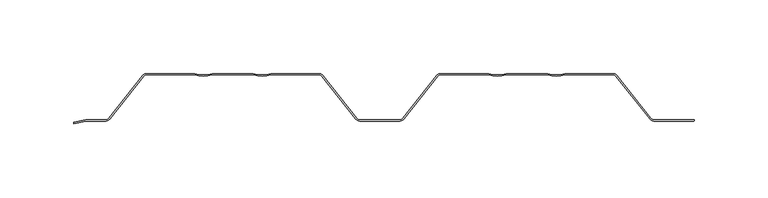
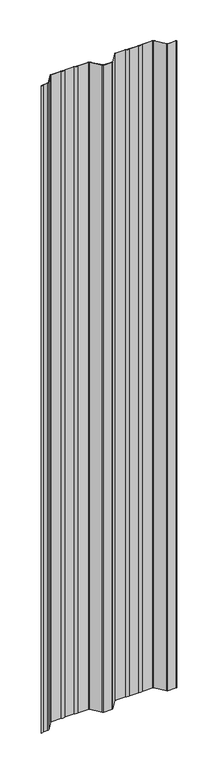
"""IFC4 building model written with IfcOpenShell, lengths in millimetres: plate geometry, HIANSA - H20.F09.003-CHAPA PERFILADA FACHADA VERTICAL - MT32F - Panel de Muro Cortina : -."""

from ifc_helpers import new_model, si_unit, point, frame_2d, origin, origin_with_axes, place, context, project, spatial, polyline, circle_curve, trimmed, segment, composite_curve, outline, extrude, source, transform, mapped, element, save


def plate_780f8bb1(model_context):
    return source(origin(), model_context, "Body", "SweptSolid", [
        extrude(outline(composite_curve([segment(polyline([(-184.4192938, -30.5163104), (-161.2209231, -1.2863633)]), True, "CONTINUOUS"), segment(trimmed(circle_curve(frame_2d((-158.5577408, -3.4)), 3.4), [point((-161.2209231, -1.2863633))], [point((-158.5577408, 0.0))], False, "CARTESIAN"), True, "CONTINUOUS"), segment(polyline([(-158.5577408, 0.0), (-125.9329586, 0.0)]), True, "CONTINUOUS"), segment(trimmed(circle_curve(frame_2d((-119.9999998, 17.1)), 18.1), [point((-125.9329586, 0.0))], [point((-114.0670411, 0.0))], True, "CARTESIAN"), True, "CONTINUOUS"), segment(polyline([(-114.0670411, 0.0), (-85.9329586, 0.0)]), True, "CONTINUOUS"), segment(trimmed(circle_curve(frame_2d((-79.9999998, 17.1)), 18.1), [point((-85.9329586, 0.0))], [point((-74.0670411, 0.0))], True, "CARTESIAN"), True, "CONTINUOUS"), segment(polyline([(-74.0670411, 0.0), (-41.4422589, 0.0)]), True, "CONTINUOUS"), segment(trimmed(circle_curve(frame_2d((-41.4422589, -3.4)), 3.4), [point((-41.4422589, 0.0))], [point((-38.7790766, -1.2863633))], False, "CARTESIAN"), True, "CONTINUOUS"), segment(polyline([(-38.7790766, -1.2863633), (-15.5807059, -30.5163104)]), True, "CONTINUOUS"), segment(trimmed(circle_curve(frame_2d((-13.5441547, -28.9)), 2.6), [point((-15.5807059, -30.5163104))], [point((-13.5441547, -31.5))], True, "CARTESIAN"), True, "CONTINUOUS"), segment(polyline([(-13.5441547, -31.5), (13.544155, -31.5)]), True, "CONTINUOUS"), segment(trimmed(circle_curve(frame_2d((13.544155, -28.9)), 2.6), [point((13.544155, -31.5))], [point((15.5807062, -30.5163104))], True, "CARTESIAN"), True, "CONTINUOUS"), segment(polyline([(15.5807062, -30.5163104), (38.7790769, -1.2863633)]), True, "CONTINUOUS"), segment(trimmed(circle_curve(frame_2d((41.4422592, -3.4)), 3.4), [point((38.7790769, -1.2863633))], [point((41.4422592, 0.0))], False, "CARTESIAN"), True, "CONTINUOUS"), segment(polyline([(41.4422592, 0.0), (74.0670414, 0.0)]), True, "CONTINUOUS"), segment(trimmed(circle_curve(frame_2d((80.0000002, 17.1)), 18.1), [point((74.0670414, 0.0))], [point((85.9329589, 0.0))], True, "CARTESIAN"), True, "CONTINUOUS"), segment(polyline([(85.9329589, 0.0), (114.0670414, 0.0)]), True, "CONTINUOUS"), segment(trimmed(circle_curve(frame_2d((120.0000002, 17.1)), 18.1), [point((114.0670414, 0.0))], [point((125.9329589, 0.0))], True, "CARTESIAN"), True, "CONTINUOUS"), segment(polyline([(125.9329589, 0.0), (158.5577411, 0.0)]), True, "CONTINUOUS"), segment(trimmed(circle_curve(frame_2d((158.5577411, -3.4)), 3.4), [point((158.5577411, 0.0))], [point((161.2209234, -1.2863633))], False, "CARTESIAN"), True, "CONTINUOUS"), segment(polyline([(161.2209234, -1.2863633), (184.4192941, -30.5163104)]), True, "CONTINUOUS"), segment(trimmed(circle_curve(frame_2d((186.4558453, -28.9)), 2.6), [point((184.4192941, -30.5163104))], [point((186.4558453, -31.5))], True, "CARTESIAN"), True, "CONTINUOUS"), segment(polyline([(186.4558453, -31.5), (213.544155, -31.5)]), True, "CONTINUOUS"), segment(trimmed(circle_curve(frame_2d((213.544155, -28.9)), 2.6), [point((213.544155, -31.5))], [point((213.9999998, -31.4597276))], True, "CARTESIAN"), True, "CONTINUOUS"), segment(polyline([(213.9999998, -31.4597276), (213.9999998, -32.2693034)]), True, "CONTINUOUS"), segment(trimmed(circle_curve(frame_2d((213.544155, -28.9)), 3.4), [point((213.9999998, -32.2693034))], [point((213.544155, -32.3))], False, "CARTESIAN"), True, "CONTINUOUS"), segment(polyline([(213.544155, -32.3), (186.4558453, -32.3)]), True, "CONTINUOUS"), segment(trimmed(circle_curve(frame_2d((186.4558453, -28.9)), 3.4), [point((186.4558453, -32.3))], [point((183.792663, -31.0136367))], False, "CARTESIAN"), True, "CONTINUOUS"), segment(polyline([(183.792663, -31.0136367), (160.5942923, -1.7836896)]), True, "CONTINUOUS"), segment(trimmed(circle_curve(frame_2d((158.5577411, -3.4)), 2.6), [point((160.5942923, -1.7836896))], [point((158.5577411, -0.8))], True, "CARTESIAN"), True, "CONTINUOUS"), segment(polyline([(158.5577411, -0.8), (126.0663005, -0.8)]), True, "CONTINUOUS"), segment(trimmed(circle_curve(frame_2d((120.0000002, 17.1)), 18.9), [point((126.0663005, -0.8))], [point((113.9336998, -0.8))], False, "CARTESIAN"), True, "CONTINUOUS"), segment(polyline([(113.9336998, -0.8), (86.0663005, -0.8)]), True, "CONTINUOUS"), segment(trimmed(circle_curve(frame_2d((80.0000002, 17.1)), 18.9), [point((86.0663005, -0.8))], [point((73.9336998, -0.8))], False, "CARTESIAN"), True, "CONTINUOUS"), segment(polyline([(73.9336998, -0.8), (41.4422592, -0.8)]), True, "CONTINUOUS"), segment(trimmed(circle_curve(frame_2d((41.4422592, -3.4)), 2.6), [point((41.4422592, -0.8))], [point((39.405708, -1.7836896))], True, "CARTESIAN"), True, "CONTINUOUS"), segment(polyline([(39.405708, -1.7836896), (16.2073373, -31.0136367)]), True, "CONTINUOUS"), segment(trimmed(circle_curve(frame_2d((13.544155, -28.9)), 3.4), [point((16.2073373, -31.0136367))], [point((13.544155, -32.3))], False, "CARTESIAN"), True, "CONTINUOUS"), segment(polyline([(13.544155, -32.3), (-13.5441547, -32.3)]), True, "CONTINUOUS"), segment(trimmed(circle_curve(frame_2d((-13.5441547, -28.9)), 3.4), [point((-13.5441547, -32.3))], [point((-16.207337, -31.0136367))], False, "CARTESIAN"), True, "CONTINUOUS"), segment(polyline([(-16.207337, -31.0136367), (-39.4057077, -1.7836896)]), True, "CONTINUOUS"), segment(trimmed(circle_curve(frame_2d((-41.4422589, -3.4)), 2.6), [point((-39.4057077, -1.7836896))], [point((-41.4422589, -0.8))], True, "CARTESIAN"), True, "CONTINUOUS"), segment(polyline([(-41.4422589, -0.8), (-73.9336995, -0.8)]), True, "CONTINUOUS"), segment(trimmed(circle_curve(frame_2d((-79.9999998, 17.1)), 18.9), [point((-73.9336995, -0.8))], [point((-86.0663002, -0.8))], False, "CARTESIAN"), True, "CONTINUOUS"), segment(polyline([(-86.0663002, -0.8), (-113.9336995, -0.8)]), True, "CONTINUOUS"), segment(trimmed(circle_curve(frame_2d((-119.9999998, 17.1)), 18.9), [point((-113.9336995, -0.8))], [point((-126.0663002, -0.8))], False, "CARTESIAN"), True, "CONTINUOUS"), segment(polyline([(-126.0663002, -0.8), (-158.5577408, -0.8)]), True, "CONTINUOUS"), segment(trimmed(circle_curve(frame_2d((-158.5577408, -3.4)), 2.6), [point((-158.5577408, -0.8))], [point((-160.594292, -1.7836896))], True, "CARTESIAN"), True, "CONTINUOUS"), segment(polyline([(-160.594292, -1.7836896), (-183.7926627, -31.0136367)]), True, "CONTINUOUS"), segment(trimmed(circle_curve(frame_2d((-186.455845, -28.9)), 3.4), [point((-183.7926627, -31.0136367))], [point((-186.455845, -32.3))], False, "CARTESIAN"), True, "CONTINUOUS"), segment(polyline([(-186.455845, -32.3), (-199.9999998, -32.3), (-208.3011513, -34.0662289), (-208.3011513, -33.248321), (-200.0841655, -31.5), (-186.455845, -31.5)]), True, "CONTINUOUS"), segment(trimmed(circle_curve(frame_2d((-186.455845, -28.9)), 2.6), [point((-186.455845, -31.5))], [point((-184.4192938, -30.5163104))], True, "CARTESIAN"), True, "CONTINUOUS")], self_intersect=False)), origin_with_axes(), (0.0, 0.0, 1.0), 2128.0),
    ])


if __name__ == "__main__":
    model = new_model("IFC4")
    model_context = context("Model", 3, world=origin())
    ifc_project = project(units=[si_unit("LENGTHUNIT", "METRE", prefix="MILLI")], contexts=[model_context])
    site = spatial("IfcSite", under=ifc_project)
    building = spatial("IfcBuilding", under=site)
    placement = place(None, origin())
    plate_shape = plate_780f8bb1(model_context)
    element("IfcPlate", 1, ObjectType="HIANSA - H20.F09.003-CHAPA PERFILADA FACHADA VERTICAL - MT32F - Panel de Muro Cortina : -", at=placement, inside=building, context=model_context, shape_type="MappedRepresentation", body=[
        mapped(plate_shape, transform((0.0, 0.0, 0.0), x_axis=(1.0, 0.0, 0.0), y_axis=(0.0, 1.0, 0.0), z_axis=(0.0, 0.0, 1.0))),
    ])
    save(model, "model.ifc")
